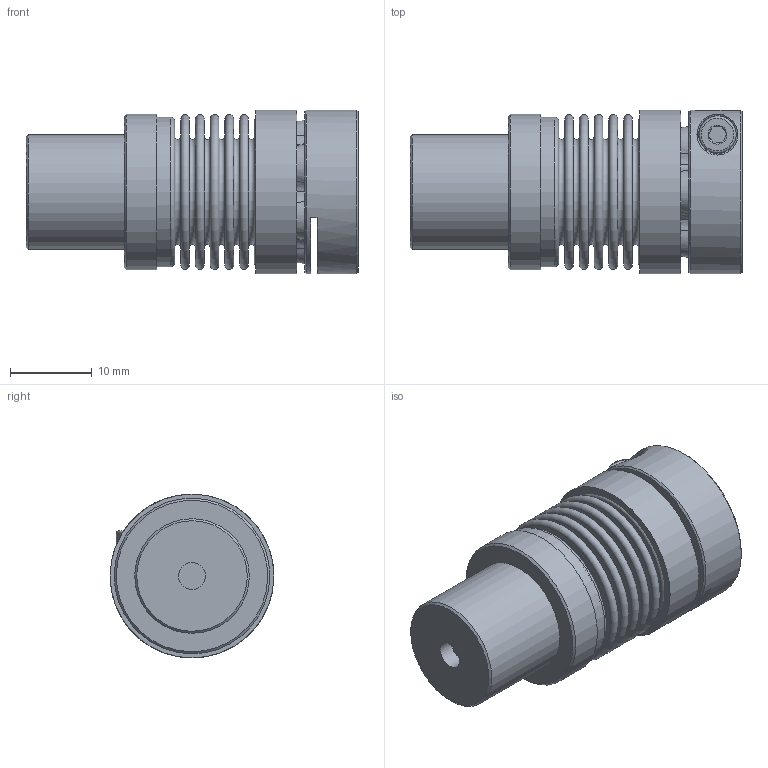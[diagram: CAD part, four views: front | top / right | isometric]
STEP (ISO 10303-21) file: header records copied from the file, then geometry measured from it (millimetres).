
FILE_DESCRIPTION( ( 'KBE1/14 - N7H8 - N14H7 - 98 Sh' ), '1' );
FILE_NAME( 'K:/Konstruktion/Fertigungszeichnungen/Metallbalgkupplung/KB3P/15/KB3P-15-29.stp', '14.12.2015', ( 'KBK-Antriebstechnik' ), ( 'KBK-Antriebstechnik' ), 'PSStep 16.0.42', 'Solid Edge St6', ' ' );
FILE_SCHEMA( ( 'AUTOMOTIVE_DESIGN { 1 0 10303 214 1 1 1 1 }' ) );
Length unit declared in the file: millimetre
Products named in the file (7): Assem1; Stecknabe KB2P-15; ISO EN DIN 4762 M2,5x8; BK15_Standard_0; Balgaufnahme KB2P-15 für Step; SN15; ISO EN DIN 4762 M4x16
Assembly tree (6 placements, depth 2):
  Assem1
    Stecknabe KB2P-15
    ISO EN DIN 4762 M2,5x8
    BK15_Standard_0
    Balgaufnahme KB2P-15 für Step
    SN15
    ISO EN DIN 4762 M4x16
Bounding box: 40.55 x 20 x 20 mm (x, y, z)
Volume: 7521.3 mm3; surface area: 9384.1 mm2
Topology: 6 solids, 6 shells, 180 faces, 364 edges, 231 vertices
Faces by surface type: plane 66, cone 58, torus 31, cylinder 24, bspline 1
Full cylindrical faces by diameter (mm): 2.013 x1, 2.1 x1, 2.5 x2, 2.8 x1, 3 x1, 3.3 x1, 3.5 x1, 4 x2, 4.5 x1, 7 x1, 14 x1, 18 x3, 18.3 x2, 19 x1, 20 x2
Entity records: 6429 total; most frequent: CARTESIAN_POINT 1207, DIRECTION 838, ORIENTED_EDGE 596, AXIS2_PLACEMENT_3D 386, EDGE_CURVE 298, EDGE_LOOP 285, VERTEX_POINT 233, FACE_OUTER_BOUND 231
